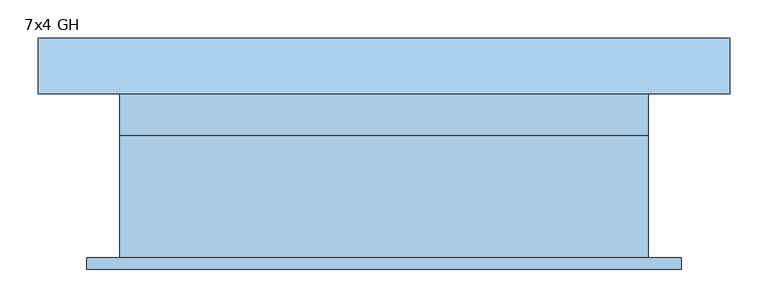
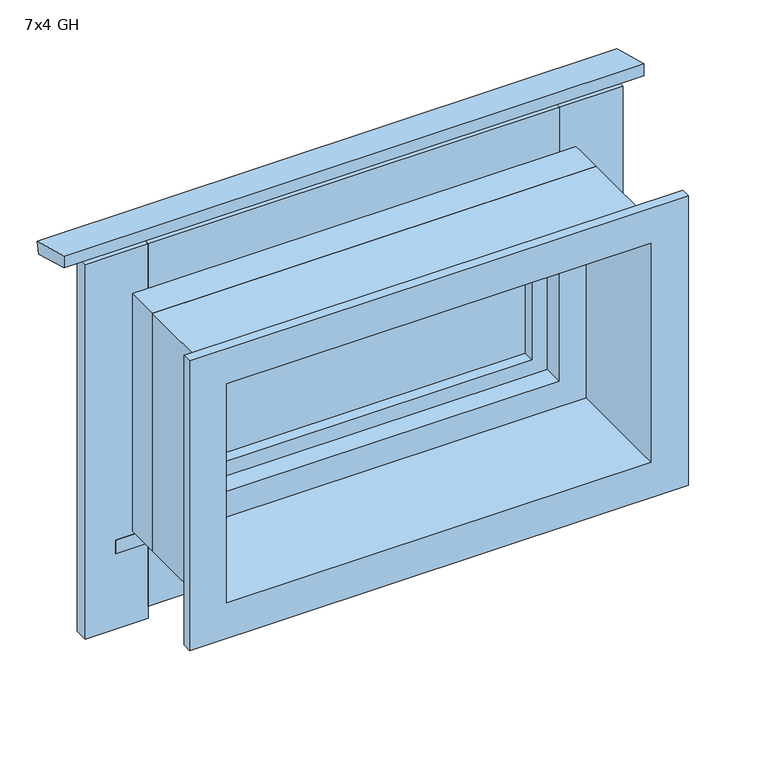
"""IFC4 building model written with IfcOpenShell, lengths in millimetres: window geometry, Vindu GH : 7x4 GH."""

from ifc_helpers import new_model, si_unit, frame, origin, place, context, project, spatial, polyline, outline, extrude, faceted_brep, source, transform, mapped, element, save


def window_7x4_gh_66049d69(model_context):
    return source(origin(), model_context, "Body", "SolidModel", [
        extrude(outline(polyline([(179.444437, 1679.1537013), (174.5268751, 1660.8011106), (107.0, 1678.8948822), (107.0, 1698.5651297), (179.444437, 1679.1537013)])), frame((-451.0, 0.0, 0.0), z_axis=(1.0, 0.0, 0.0), x_axis=(0.0, 1.0, 0.0)), (0.0, 0.0, 1.0), 902.0),
        extrude(outline(polyline([(155.2962913, 1190.6791642), (149.6022723, 1169.4287961), (107.0, 1180.8440405), (107.0, 1203.6201165), (155.2962913, 1190.6791642)])), frame((-371.0, 0.0, 0.0), z_axis=(1.0, 0.0, 0.0), x_axis=(0.0, 1.0, 0.0)), (0.0, 0.0, 1.0), 742.0),
        extrude(outline(polyline([(-320.0, 107.0), (-320.0, 129.0), (320.0, 129.0), (320.0, 107.0), (-320.0, 107.0)])), frame((0.0, 0.0, 1077.0051732), z_axis=(0.0, 0.0, 1.0), x_axis=(1.0, 0.0, 0.0)), (0.0, 0.0, 1.0), 98.0),
        extrude(outline(polyline([(-320.0, 107.0), (-320.0, 129.0), (320.0, 129.0), (320.0, 107.0), (-320.0, 107.0)])), frame((0.0, 0.0, 1575.0), z_axis=(0.0, 0.0, 1.0), x_axis=(1.0, 0.0, 0.0)), (0.0, 0.0, 1.0), 98.0),
        extrude(outline(polyline([(418.0, 107.0), (320.0, 107.0), (320.0, 129.0), (418.0, 129.0), (418.0, 107.0)])), frame((0.0, 0.0, 1057.0), z_axis=(0.0, 0.0, 1.0), x_axis=(1.0, 0.0, 0.0)), (0.0, 0.0, 1.0), 616.0),
        extrude(outline(polyline([(-320.0, 107.0), (-418.0, 107.0), (-418.0, 129.0), (-320.0, 129.0), (-320.0, 107.0)])), frame((0.0, 0.0, 1057.0), z_axis=(0.0, 0.0, 1.0), x_axis=(1.0, 0.0, 0.0)), (0.0, 0.0, 1.0), 616.0),
        extrude(outline(polyline([(-264.0, 127.0), (264.0, 127.0), (264.0, 103.0), (-264.0, 103.0), (-264.0, 127.0)])), frame((0.0, 0.0, 1291.0), z_axis=(0.0, 0.0, 1.0), x_axis=(1.0, 0.0, 0.0)), (0.0, 0.0, 1.0), 228.0),
        extrude(outline(polyline([(1249.0, -306.0), (1249.0, 306.0), (1561.0, 306.0), (1561.0, -306.0), (1249.0, -306.0)]), holes=[polyline([(1519.0, -264.0), (1519.0, 264.0), (1291.0, 264.0), (1291.0, -264.0), (1519.0, -264.0)])]), frame((0.0, 85.0, 0.0), z_axis=(0.0, 1.0, 0.0), x_axis=(0.0, 0.0, 1.0)), (0.0, 0.0, 1.0), 60.0),
        faceted_brep([(-345.0, 145.0, 1210.0), (-345.0, 53.0, 1210.0), (-345.0, 53.0, 1600.0), (-345.0, 145.0, 1600.0), (-306.0, 85.0, 1249.0), (-306.0, 145.0, 1249.0), (-306.0, 145.0, 1561.0), (-306.0, 85.0, 1561.0), (-288.0, 53.0, 1267.0), (-288.0, 85.0, 1267.0), (-288.0, 85.0, 1543.0), (-288.0, 53.0, 1543.0), (345.0, 53.0, 1600.0), (345.0, 145.0, 1600.0), (306.0, 145.0, 1561.0), (306.0, 85.0, 1561.0), (288.0, 85.0, 1543.0), (288.0, 53.0, 1543.0), (345.0, 53.0, 1210.0), (345.0, 145.0, 1210.0), (306.0, 145.0, 1249.0), (306.0, 85.0, 1249.0), (288.0, 85.0, 1267.0), (288.0, 53.0, 1267.0)], [[[0, 1, 2, 3]], [[4, 5, 6, 7]], [[8, 9, 10, 11]], [[3, 2, 12, 13]], [[7, 6, 14, 15]], [[11, 10, 16, 17]], [[13, 12, 18, 19]], [[15, 14, 20, 21]], [[17, 16, 22, 23]], [[19, 18, 1, 0]], [[3, 13, 19, 0], [5, 20, 14, 6]], [[21, 20, 5, 4]], [[7, 15, 21, 4], [9, 22, 16, 10]], [[23, 22, 9, 8]], [[1, 18, 12, 2], [11, 17, 23, 8]]]),
        extrude(outline(polyline([(1210.0, 320.0), (1210.0, 345.0), (1600.0, 345.0), (1600.0, -345.0), (1210.0, -345.0), (1210.0, -320.0), (1575.0, -320.0), (1575.0, 320.0), (1210.0, 320.0)])), frame((0.0, 107.0, 0.0), z_axis=(0.0, 1.0, 0.0), x_axis=(0.0, 0.0, 1.0)), (0.0, 0.0, 1.0), 38.0),
        faceted_brep([(345.0, -107.0, 1210.0), (345.0, 53.0, 1210.0), (345.0, 53.0, 1600.0), (345.0, -107.0, 1600.0), (388.0, -122.0, 1167.0), (388.0, -107.0, 1167.0), (388.0, -107.0, 1643.0), (388.0, -122.0, 1643.0), (330.0, 53.0, 1225.0), (330.0, -122.0, 1225.0), (330.0, -122.0, 1585.0), (330.0, 53.0, 1585.0), (-345.0, 53.0, 1600.0), (-345.0, -107.0, 1600.0), (-388.0, -107.0, 1643.0), (-388.0, -122.0, 1643.0), (-330.0, -122.0, 1585.0), (-330.0, 53.0, 1585.0), (-345.0, 53.0, 1210.0), (-345.0, -107.0, 1210.0), (-388.0, -107.0, 1167.0), (-388.0, -122.0, 1167.0), (-330.0, -122.0, 1225.0), (-330.0, 53.0, 1225.0)], [[[0, 1, 2, 3]], [[4, 5, 6, 7]], [[8, 9, 10, 11]], [[3, 2, 12, 13]], [[7, 6, 14, 15]], [[11, 10, 16, 17]], [[13, 12, 18, 19]], [[15, 14, 20, 21]], [[17, 16, 22, 23]], [[19, 18, 1, 0]], [[5, 20, 14, 6], [3, 13, 19, 0]], [[21, 20, 5, 4]], [[7, 15, 21, 4], [9, 22, 16, 10]], [[23, 22, 9, 8]], [[1, 18, 12, 2], [11, 17, 23, 8]]]),
    ])


if __name__ == "__main__":
    model = new_model("IFC4")
    model_context = context("Model", 3, world=origin())
    ifc_project = project(units=[si_unit("LENGTHUNIT", "METRE", prefix="MILLI")], contexts=[model_context])
    site = spatial("IfcSite", under=ifc_project)
    building = spatial("IfcBuilding", under=site)
    placement = place(None, origin())
    window_7x4_gh_shape = window_7x4_gh_66049d69(model_context)
    element("IfcWindow", 1, ObjectType="Vindu GH : 7x4 GH", at=placement, inside=building, context=model_context, shape_type="MappedRepresentation", body=[
        mapped(window_7x4_gh_shape, transform((0.0, 0.0, 0.0), x_axis=(1.0, 0.0, 0.0), y_axis=(0.0, 1.0, 0.0), z_axis=(0.0, 0.0, 1.0))),
    ])
    save(model, "model.ifc")
